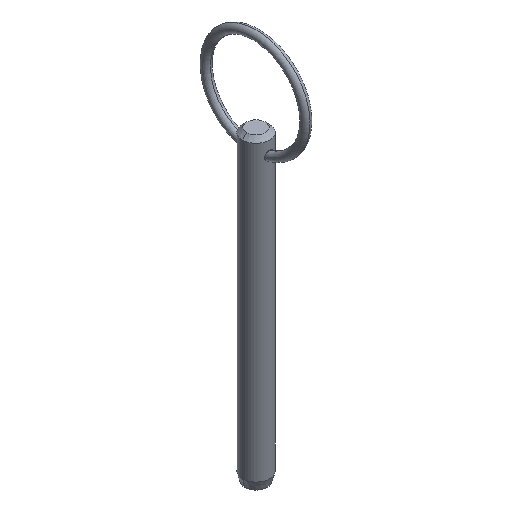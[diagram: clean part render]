
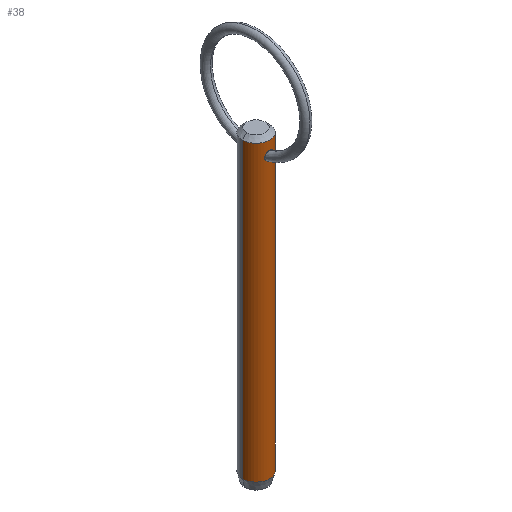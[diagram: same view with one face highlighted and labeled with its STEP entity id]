
A CAD part, isometric view. The second image highlights one B-rep face of the part: STEP entity #38.
In plain terms, the highlighted cylindrical face has radius 3.175 mm (diameter 6.35 mm), a partial arc.
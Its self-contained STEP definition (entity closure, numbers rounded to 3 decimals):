
#9 = EDGE_CURVE ( 'NONE', #74, #46, #318, .T. ) ;
#16 = CARTESIAN_POINT ( 'NONE',  ( 0.884, -3.055, 60.357 ) ) ;
#17 = CARTESIAN_POINT ( 'NONE',  ( 0.134, -3.175, 58.803 ) ) ;
#20 = CARTESIAN_POINT ( 'NONE',  ( 0.982, -3.02, 59.558 ) ) ;
#23 = CARTESIAN_POINT ( 'NONE',  ( 0., -3.175, 60.882 ) ) ;
#24 = CARTESIAN_POINT ( 'NONE',  ( 0.888, -3.049, 59.309 ) ) ;
#29 = B_SPLINE_CURVE_WITH_KNOTS ( 'NONE', 3,
 ( #95, #315, #472, #427, #283, #319, #133, #277, #170, #242, #394, #275, #200, #243, #134, #171, #392, #23 ),
 .UNSPECIFIED., .F., .F.,
 ( 4, 2, 2, 2, 2, 2, 2, 2, 4 ),
 ( 0.006, 0.006, 0.007, 0.007, 0.008, 0.008, 0.009, 0.009, 0.009 ),
 .UNSPECIFIED. ) ;
#31 = EDGE_CURVE ( 'NONE', #256, #337, #29, .T. ) ;
#36 = EDGE_CURVE ( 'NONE', #337, #256, #212, .T. ) ;
#37 = CARTESIAN_POINT ( 'NONE',  ( 0., -3.175, 58.803 ) ) ;
#38 = ADVANCED_FACE ( 'NONE', ( #203, #162 ), #347, .T. ) ;
#46 = VERTEX_POINT ( 'NONE', #57 ) ;
#47 = ORIENTED_EDGE ( 'NONE', *, *, #122, .T. ) ;
#56 = CARTESIAN_POINT ( 'NONE',  ( 1.004, -3.012, 59.693 ) ) ;
#57 = CARTESIAN_POINT ( 'NONE',  ( -3.175, 0., 62.98 ) ) ;
#58 = CARTESIAN_POINT ( 'NONE',  ( 0.268, -3.166, 58.829 ) ) ;
#61 = CARTESIAN_POINT ( 'NONE',  ( 0., 0., 58.4 ) ) ;
#62 = ORIENTED_EDGE ( 'NONE', *, *, #36, .T. ) ;
#72 = VECTOR ( 'NONE', #226, 1000. ) ;
#74 = VERTEX_POINT ( 'NONE', #431 ) ;
#95 = CARTESIAN_POINT ( 'NONE',  ( 0., -3.175, 58.803 ) ) ;
#96 = CARTESIAN_POINT ( 'NONE',  ( 0.134, -3.175, 60.882 ) ) ;
#104 = DIRECTION ( 'NONE',  ( -1., 0., 0. ) ) ;
#122 = EDGE_CURVE ( 'NONE', #289, #308, #397, .T. ) ;
#127 = ORIENTED_EDGE ( 'NONE', *, *, #361, .F. ) ;
#132 = CARTESIAN_POINT ( 'NONE',  ( 0., 0., 62.98 ) ) ;
#133 = CARTESIAN_POINT ( 'NONE',  ( -0.888, -3.049, 59.309 ) ) ;
#134 = CARTESIAN_POINT ( 'NONE',  ( -0.264, -3.165, 60.844 ) ) ;
#145 = ORIENTED_EDGE ( 'NONE', *, *, #31, .T. ) ;
#156 = DIRECTION ( 'NONE',  ( 0., 0., -1. ) ) ;
#162 = FACE_BOUND ( 'NONE', #348, .T. ) ;
#170 = CARTESIAN_POINT ( 'NONE',  ( -1.004, -3.012, 59.695 ) ) ;
#171 = CARTESIAN_POINT ( 'NONE',  ( -0.133, -3.173, 60.874 ) ) ;
#175 = CARTESIAN_POINT ( 'NONE',  ( 0.815, -3.07, 59.195 ) ) ;
#200 = CARTESIAN_POINT ( 'NONE',  ( -0.508, -3.136, 60.735 ) ) ;
#203 = FACE_OUTER_BOUND ( 'NONE', #230, .T. ) ;
#204 = CARTESIAN_POINT ( 'NONE',  ( 0.269, -3.166, 60.85 ) ) ;
#212 = B_SPLINE_CURVE_WITH_KNOTS ( 'NONE', 3,
 ( #393, #96, #204, #388, #359, #16, #279, #56, #20, #24, #175, #355, #286, #58, #17, #389 ),
 .UNSPECIFIED., .F., .F.,
 ( 4, 2, 2, 2, 2, 2, 2, 4 ),
 ( 0.003, 0.003, 0.004, 0.004, 0.005, 0.005, 0.006, 0.006 ),
 .UNSPECIFIED. ) ;
#217 = CARTESIAN_POINT ( 'NONE',  ( -3.175, 0., -5.92 ) ) ;
#226 = DIRECTION ( 'NONE',  ( 0., 0., -1. ) ) ;
#230 = EDGE_LOOP ( 'NONE', ( #127, #323, #312, #47 ) ) ;
#232 = CARTESIAN_POINT ( 'NONE',  ( -3.175, 0., 58.4 ) ) ;
#239 = DIRECTION ( 'NONE',  ( 0., 0., -1. ) ) ;
#241 = DIRECTION ( 'NONE',  ( 0., 0., -1. ) ) ;
#242 = CARTESIAN_POINT ( 'NONE',  ( -0.991, -3.016, 60.096 ) ) ;
#243 = CARTESIAN_POINT ( 'NONE',  ( -0.328, -3.159, 60.821 ) ) ;
#247 = AXIS2_PLACEMENT_3D ( 'NONE', #396, #292, #104 ) ;
#256 = VERTEX_POINT ( 'NONE', #37 ) ;
#258 = CARTESIAN_POINT ( 'NONE',  ( 3.175, 0., -5.92 ) ) ;
#275 = CARTESIAN_POINT ( 'NONE',  ( -0.615, -3.116, 60.653 ) ) ;
#277 = CARTESIAN_POINT ( 'NONE',  ( -0.983, -3.02, 59.559 ) ) ;
#279 = CARTESIAN_POINT ( 'NONE',  ( 0.992, -3.016, 60.094 ) ) ;
#283 = CARTESIAN_POINT ( 'NONE',  ( -0.629, -3.114, 59.005 ) ) ;
#286 = CARTESIAN_POINT ( 'NONE',  ( 0.515, -3.135, 58.93 ) ) ;
#289 = VERTEX_POINT ( 'NONE', #217 ) ;
#292 = DIRECTION ( 'NONE',  ( 0., 0., 1. ) ) ;
#305 = VECTOR ( 'NONE', #156, 1000. ) ;
#308 = VERTEX_POINT ( 'NONE', #258 ) ;
#309 = CARTESIAN_POINT ( 'NONE',  ( 0., -3.175, 60.882 ) ) ;
#312 = ORIENTED_EDGE ( 'NONE', *, *, #410, .T. ) ;
#315 = CARTESIAN_POINT ( 'NONE',  ( -0.134, -3.175, 58.803 ) ) ;
#318 = CIRCLE ( 'NONE', #364, 3.175 ) ;
#319 = CARTESIAN_POINT ( 'NONE',  ( -0.815, -3.07, 59.195 ) ) ;
#323 = ORIENTED_EDGE ( 'NONE', *, *, #9, .T. ) ;
#337 = VERTEX_POINT ( 'NONE', #309 ) ;
#347 = CYLINDRICAL_SURFACE ( 'NONE', #350, 3.175 ) ;
#348 = EDGE_LOOP ( 'NONE', ( #62, #145 ) ) ;
#350 = AXIS2_PLACEMENT_3D ( 'NONE', #61, #241, #434 ) ;
#355 = CARTESIAN_POINT ( 'NONE',  ( 0.628, -3.114, 59.004 ) ) ;
#359 = CARTESIAN_POINT ( 'NONE',  ( 0.617, -3.116, 60.651 ) ) ;
#361 = EDGE_CURVE ( 'NONE', #74, #308, #449, .T. ) ;
#364 = AXIS2_PLACEMENT_3D ( 'NONE', #132, #239, #471 ) ;
#388 = CARTESIAN_POINT ( 'NONE',  ( 0.51, -3.136, 60.734 ) ) ;
#389 = CARTESIAN_POINT ( 'NONE',  ( 0., -3.175, 58.803 ) ) ;
#392 = CARTESIAN_POINT ( 'NONE',  ( -0.067, -3.175, 60.882 ) ) ;
#393 = CARTESIAN_POINT ( 'NONE',  ( 0., -3.175, 60.882 ) ) ;
#394 = CARTESIAN_POINT ( 'NONE',  ( -0.882, -3.055, 60.36 ) ) ;
#396 = CARTESIAN_POINT ( 'NONE',  ( 0., 0., -5.92 ) ) ;
#397 = CIRCLE ( 'NONE', #247, 3.175 ) ;
#410 = EDGE_CURVE ( 'NONE', #46, #289, #466, .T. ) ;
#421 = CARTESIAN_POINT ( 'NONE',  ( 3.175, 0., 58.4 ) ) ;
#427 = CARTESIAN_POINT ( 'NONE',  ( -0.516, -3.135, 58.931 ) ) ;
#431 = CARTESIAN_POINT ( 'NONE',  ( 3.175, 0., 62.98 ) ) ;
#434 = DIRECTION ( 'NONE',  ( -1., 0., 0. ) ) ;
#449 = LINE ( 'NONE', #421, #305 ) ;
#466 = LINE ( 'NONE', #232, #72 ) ;
#471 = DIRECTION ( 'NONE',  ( 1., 0., 0. ) ) ;
#472 = CARTESIAN_POINT ( 'NONE',  ( -0.269, -3.166, 58.829 ) ) ;
